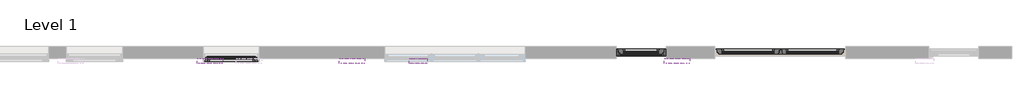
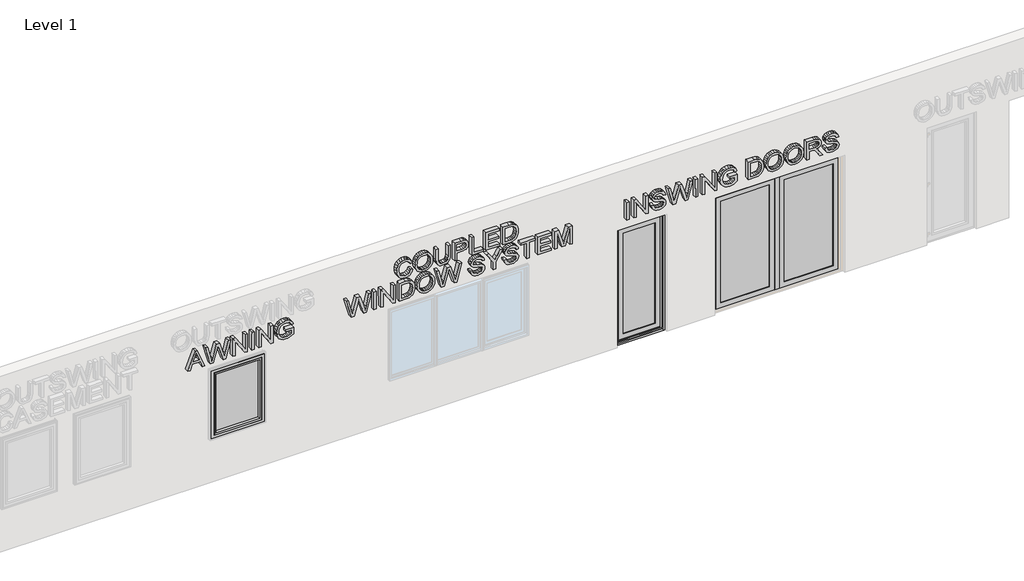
# One storey, part 3 of 4: 10 proxies.
"""IFC4 building model written with IfcOpenShell, lengths in millimetres."""

from ifc_helpers import new_model, si_unit, frame, origin, place, context, project, spatial, polyline, outline, extrude, transform, mapped, element, save
from components import awning_glazing_default_ca3b899a, default_b7455459, double_door_active_glazing_unit_default_3c53baf6, double_door_fixed_glazing_unit_default_5535939b, single_door_frame_default_a77f339c, single_door_glazing_unit_default_bb58f146

model = new_model("IFC4")

# Units and contexts
model_context = context("Model", 3, world=origin())
ifc_project = project(units=[si_unit("LENGTHUNIT", "METRE", prefix="MILLI")], contexts=[model_context])

# Site, building, storey
site = spatial("IfcSite", under=ifc_project)
building = spatial("IfcBuilding", under=site)
storey = spatial("IfcBuildingStorey", under=building, Name="Level 1", Elevation=0.0)

# Proxies
placement = place(None, origin())
element("IfcBuildingElementProxy", 1, Name="600mm Arial", ObjectType="600mm Arial", at=placement, inside=storey, context=model_context, shape_type="SweptSolid", body=[
    extrude(outline(polyline([(2116.0035161, -6844.9893745), (2116.0035161, -6804.7623194), (2211.4111483, -6770.2561868), (2211.4111483, -6644.8161831), (2116.7276892, -6609.6499485), (2116.7276892, -6569.4228934), (2421.0430268, -6691.933533), (2421.0430268, -6724.3531191), (2116.0035161, -6844.9893745)]), holes=[polyline([(2249.6749677, -6756.3942482), (2331.0373712, -6726.8276952), (2382.9224405, -6708.026177), (2324.6179818, -6686.5061482), (2249.8250648, -6658.8380628), (2249.6749677, -6756.3942482)])]), frame((0.0, 4149.5439366, 0.0), z_axis=(0.0, 1.0, 0.0), x_axis=(0.0, 0.0, 1.0)), (0.0, 0.0, 1.0), 76.2),
    extrude(outline(polyline([(2117.1443461, -6474.2461271), (2117.1443461, -6428.2935946), (2345.766056, -6362.4466515), (2385.2847789, -6351.1171932), (2352.5247551, -6340.8294011), (2117.7818015, -6267.0879467), (2117.7818015, -6226.4147505), (2422.7284167, -6144.2209858), (2422.7284167, -6183.4814019), (2220.5047663, -6231.489342), (2160.4544009, -6245.7299237), (2216.3281359, -6259.7509493), (2272.0379415, -6278.7162478), (2422.1781367, -6323.0492068), (2422.1781367, -6379.6347686), (2214.5113297, -6439.3746168), (2159.8100813, -6455.1188095), (2221.5548612, -6470.1803176), (2421.5752311, -6518.979503), (2421.5752311, -6558.2399191), (2117.1443461, -6474.2461271)])), frame((0.0, 4149.5439366, 0.0), z_axis=(0.0, 1.0, 0.0), x_axis=(0.0, 0.0, 1.0)), (0.0, 0.0, 1.0), 76.2),
    extrude(outline(polyline([(2118.2799136, -6105.6816832), (2118.2799136, -6067.1423806), (2359.7593934, -6067.1423806), (2118.8867089, -5908.0187245), (2118.8867089, -5867.2711714), (2423.577747, -5867.2711714), (2423.577747, -5906.27907), (2182.1726241, -5906.27907), (2422.9709518, -6065.4027262), (2422.9709518, -6106.1502792), (2118.2799136, -6105.6816832)])), frame((0.0, 4149.5439366, 0.0), z_axis=(0.0, 1.0, 0.0), x_axis=(0.0, 0.0, 1.0)), (0.0, 0.0, 1.0), 76.2),
    extrude(outline(polyline([(2119.2317493, -5796.3571928), (2119.2317493, -5757.8178902), (2423.9145505, -5757.8178902), (2423.9145505, -5796.8257888), (2119.2317493, -5796.3571928)])), frame((0.0, 4149.5439366, 0.0), z_axis=(0.0, 1.0, 0.0), x_axis=(0.0, 0.0, 1.0)), (0.0, 0.0, 1.0), 76.2),
    extrude(outline(polyline([(2119.5831963, -5682.1450732), (2119.5831963, -5643.6057706), (2361.0626761, -5643.6057706), (2120.1899916, -5484.4821145), (2120.1899916, -5443.7345614), (2424.8810298, -5443.7345614), (2424.8810298, -5482.74246), (2183.4759069, -5482.74246), (2424.2742345, -5641.8661162), (2424.2742345, -5682.6136692), (2119.5831963, -5682.1450732)])), frame((0.0, 4149.5439366, 0.0), z_axis=(0.0, 1.0, 0.0), x_axis=(0.0, 0.0, 1.0)), (0.0, 0.0, 1.0), 76.2),
    extrude(outline(polyline([(2239.9306551, -5234.7703408), (2239.9306551, -5149.0526766), (2185.1701724, -5149.0526766), (2174.3664047, -5165.0693561), (2164.1944401, -5187.3732054), (2156.7818574, -5213.0688144), (2154.2562354, -5239.4300898), (2157.4081584, -5269.3036409), (2167.0529219, -5297.505537), (2183.3931201, -5321.6290758), (2206.6313473, -5339.267555), (2236.5548288, -5350.0950055), (2272.9507895, -5353.7854583), (2304.0039261, -5350.9067111), (2332.7703049, -5342.0723231), (2362.1643722, -5322.5695577), (2374.2736742, -5308.01415), (2383.8299061, -5289.4727571), (2390.0613582, -5267.0266566), (2392.1963207, -5240.7571259), (2390.3599974, -5218.3047891), (2384.7064219, -5197.9413069), (2375.8732896, -5180.8490677), (2364.4982961, -5168.21046), (2349.3866986, -5158.636898), (2329.3437546, -5150.7397959), (2339.3412122, -5115.6737946), (2367.4461542, -5125.4546435), (2389.6471615, -5138.8422558), (2406.7681938, -5156.8987621), (2419.6332103, -5180.686293), (2427.6606265, -5208.9110964), (2430.2688576, -5240.2794202), (2425.471516, -5282.9830721), (2411.358635, -5320.3786726), (2400.7425755, -5336.7302274), (2387.6650472, -5351.0433174), (2354.1255849, -5373.5541024), (2314.1810255, -5387.3453443), (2271.2721467, -5391.8513599), (2228.6985906, -5387.0637132), (2190.3548545, -5372.9757988), (2158.4246275, -5349.7709354), (2135.0915984, -5317.6324418), (2120.8502113, -5278.9877544), (2116.1949099, -5236.26431), (2119.3069514, -5203.5844471), (2128.439438, -5171.7224536), (2143.5363732, -5140.7525149), (2164.5417606, -5110.7488161), (2278.3820959, -5110.7488161), (2278.3820959, -5234.8289153), (2239.9306551, -5234.7703408)])), frame((0.0, 4149.5439366, 0.0), z_axis=(0.0, 1.0, 0.0), x_axis=(0.0, 0.0, 1.0)), (0.0, 0.0, 1.0), 76.2),
])
element("IfcBuildingElementProxy", 2, Name="600mm Arial", ObjectType="600mm Arial", at=placement, inside=storey, context=model_context, shape_type="SweptSolid", body=[
    extrude(outline(polyline([(2606.0351917, -3192.1065761), (2573.3918175, -3204.3215974), (2549.8707113, -3224.2421066), (2535.6242479, -3250.6788516), (2530.8048018, -3282.4425806), (2534.1878036, -3309.7143284), (2544.5107021, -3335.0183666), (2561.8546326, -3356.1521026), (2586.3007303, -3370.9129434), (2616.6861685, -3379.6226252), (2651.8481202, -3382.602884), (2680.5759179, -3380.2653684), (2708.4635413, -3373.0734371), (2733.1536501, -3359.8858837), (2752.2889034, -3339.5615014), (2764.5846722, -3312.7376713), (2768.7563274, -3280.0517743), (2765.1722477, -3251.6733392), (2754.229184, -3228.5516457), (2735.2400217, -3210.4615068), (2707.5176465, -3197.1777355), (2716.7063311, -3159.1349434), (2754.8740124, -3176.0664924), (2770.3221241, -3188.0414446), (2783.3464165, -3202.3558487), (2793.6735282, -3218.7393173), (2801.0300977, -3236.9214631), (2805.4161249, -3256.9022861), (2806.83161, -3278.6817863), (2802.1316482, -3316.9242848), (2788.2775011, -3351.7925246), (2765.610324, -3381.1590706), (2734.4712726, -3402.8964877), (2696.0801136, -3416.3021325), (2651.6566144, -3420.6733617), (2609.5643186, -3416.5564139), (2570.2849441, -3404.4732744), (2536.903242, -3384.777339), (2512.5039632, -3357.8220036), (2503.8035506, -3341.3970671), (2497.6103799, -3322.7072931), (2492.7457644, -3278.5332323), (2494.4676094, -3255.8780665), (2499.4880812, -3235.054811), (2507.8071797, -3216.063466), (2519.4249048, -3198.9040313), (2534.1822044, -3183.915274), (2551.9200263, -3171.4359608), (2572.6383704, -3161.4660918), (2596.3372367, -3154.0056671), (2606.0351917, -3192.1065761)])), frame((0.0, 4149.5439366, 0.0), z_axis=(0.0, 1.0, 0.0), x_axis=(0.0, 0.0, 1.0)), (0.0, 0.0, 1.0), 76.2),
    extrude(outline(polyline([(2646.2734743, -3116.088261), (2607.3331654, -3111.6185193), (2570.5202079, -3098.45549), (2538.5571204, -3076.8678023), (2514.1664219, -3047.1240851), (2498.7459919, -3011.0503999), (2493.6937104, -2970.4728083), (2498.4957699, -2932.2770975), (2512.6584981, -2896.8056521), (2535.9138379, -2866.5950988), (2567.9937325, -2844.1820641), (2606.9067622, -2830.3318799), (2650.6615074, -2825.8098777), (2693.8120441, -2830.3669325), (2732.1021576, -2843.7575798), (2763.9902018, -2865.5681093), (2787.9345304, -2895.3848105), (2802.8815647, -2931.2525557), (2807.7777256, -2971.2162171), (2805.0113295, -3001.8197795), (2796.9096014, -3029.4605063), (2783.4725412, -3054.1383975), (2764.700149, -3075.853453), (2741.2184382, -3093.5433569), (2713.6534221, -3106.1457928), (2682.0051008, -3113.6607609), (2646.2734743, -3116.088261)]), holes=[polyline([(2646.0188391, -3078.0164105), (2676.8853612, -3076.126974), (2703.0099049, -3070.2541114), (2724.3924701, -3060.3978226), (2741.0330569, -3046.5581078), (2753.5274206, -3029.954405), (2762.4713165, -3011.8061523), (2767.8647449, -2992.1133498), (2769.7077055, -2970.8759975), (2766.1084401, -2941.3914471), (2755.1198192, -2914.9514077), (2737.4065927, -2893.0078969), (2713.6335106, -2877.0129328), (2684.5340744, -2867.219729), (2650.8417858, -2863.8814995), (2624.0163868, -2865.6881005), (2600.4231792, -2871.2829405), (2580.0621628, -2880.6660196), (2562.9333376, -2893.8373378), (2549.3506901, -2909.9473967), (2539.6282064, -2928.146698), (2533.7658865, -2948.4352417), (2531.7637305, -2970.8130279), (2533.6106997, -2992.8262232), (2539.2930099, -3012.9132767), (2548.8106611, -3031.0741884), (2562.1636533, -3047.3089582), (2578.8575994, -3060.6819482), (2598.3981124, -3070.2575202), (2620.7851923, -3076.0356743), (2646.0188391, -3078.0164105)])]), frame((0.0, 4149.5439366, 0.0), z_axis=(0.0, 1.0, 0.0), x_axis=(0.0, 0.0, 1.0)), (0.0, 0.0, 1.0), 76.2),
    extrude(outline(polyline([(2804.2995181, -2574.0616448), (2629.8741335, -2574.0616448), (2582.1965783, -2578.193034), (2565.2618762, -2584.1592379), (2552.9298911, -2592.5469308), (2544.1443981, -2603.7711238), (2537.8491725, -2618.246828), (2532.7295234, -2656.9527696), (2535.1824933, -2681.3867739), (2542.7043132, -2701.7467102), (2554.8973172, -2717.3807266), (2571.3638393, -2727.6369705), (2595.1685826, -2733.3428057), (2629.3762502, -2735.3255958), (2803.7430603, -2735.3255958), (2803.7430603, -2773.932854), (2627.9206779, -2773.932854), (2584.7003599, -2770.3685389), (2551.7033091, -2761.5950526), (2527.1293749, -2746.0902429), (2509.178407, -2722.8726275), (2498.2315128, -2691.9340845), (2494.6697996, -2653.2664919), (2499.0204561, -2613.7588402), (2511.803349, -2582.6795392), (2531.2991478, -2559.96753), (2555.7885219, -2545.5617539), (2587.4976871, -2537.9075527), (2628.6528593, -2535.4502681), (2804.3580927, -2535.4502681), (2804.2995181, -2574.0616448)])), frame((0.0, 4149.5439366, 0.0), z_axis=(0.0, 1.0, 0.0), x_axis=(0.0, 0.0, 1.0)), (0.0, 0.0, 1.0), 76.2),
    extrude(outline(polyline([(2499.9974513, -2468.8986058), (2499.9974513, -2430.3593032), (2623.8443965, -2430.3593032), (2623.8443965, -2353.3345581), (2625.8557084, -2323.8316841), (2630.9783073, -2299.2699523), (2639.4503808, -2279.6493624), (2651.271929, -2264.9699146), (2665.5117183, -2254.2946265), (2681.2385152, -2246.6865158), (2698.4523197, -2242.1455826), (2717.1531318, -2240.6718268), (2738.8304692, -2243.0064365), (2758.6535174, -2249.8711509), (2775.4443497, -2260.4537071), (2788.0250393, -2273.941842), (2796.7942248, -2290.6713914), (2802.1505445, -2310.9781907), (2804.9104319, -2356.4935056), (2804.9104319, -2469.3672018), (2499.9974513, -2468.8986058)]), holes=[polyline([(2662.037629, -2430.8571865), (2766.6095459, -2430.8571865), (2766.6095459, -2352.4354436), (2764.3665115, -2314.3567288), (2758.016068, -2299.9582958), (2747.1947753, -2288.6133545), (2732.7921127, -2281.2355218), (2715.6975595, -2278.7384148), (2693.1732676, -2282.8145379), (2676.3117627, -2295.1989534), (2665.758805, -2317.4737462), (2662.1601549, -2351.2210016), (2662.037629, -2430.8571865)])]), frame((0.0, 4149.5439366, 0.0), z_axis=(0.0, 1.0, 0.0), x_axis=(0.0, 0.0, 1.0)), (0.0, 0.0, 1.0), 76.2),
    extrude(outline(polyline([(2500.8614252, -2188.1271452), (2500.8614252, -1997.3050166), (2539.5178768, -1997.3050166), (2539.5178768, -2149.7049917), (2805.5442264, -2149.7049917), (2805.5442264, -2188.5957413), (2500.8614252, -2188.1271452)])), frame((0.0, 4149.5439366, 0.0), z_axis=(0.0, 1.0, 0.0), x_axis=(0.0, 0.0, 1.0)), (0.0, 0.0, 1.0), 76.2),
    extrude(outline(polyline([(2501.5789629, -1954.9440678), (2501.5789629, -1730.810071), (2540.3379199, -1730.810071), (2540.3379199, -1916.5219143), (2639.7024231, -1916.5219143), (2639.7024231, -1745.5112511), (2678.3003001, -1745.5112511), (2678.3003001, -1916.9465794), (2768.1910576, -1916.9465794), (2768.1910576, -1736.3889524), (2806.8182219, -1736.3889524), (2806.8182219, -1955.4126639), (2501.5789629, -1954.9440678)])), frame((0.0, 4149.5439366, 0.0), z_axis=(0.0, 1.0, 0.0), x_axis=(0.0, 0.0, 1.0)), (0.0, 0.0, 1.0), 76.2),
    extrude(outline(polyline([(2502.4429369, -1674.1726072), (2502.4429369, -1563.5815183), (2508.1374482, -1514.6335499), (2514.6207977, -1494.9022752), (2523.5297814, -1478.2828923), (2535.5179675, -1463.8200589), (2551.2389244, -1450.5584326), (2571.137077, -1439.0570626), (2595.6568505, -1429.8749981), (2624.4423613, -1423.8848453), (2657.1377258, -1421.9592103), (2695.6081856, -1425.0704809), (2729.5244586, -1434.1535206), (2758.3287541, -1449.2437918), (2781.4632814, -1470.3767569), (2794.7287103, -1490.9030823), (2803.1120965, -1515.2066202), (2807.3318929, -1569.5749761), (2807.3318929, -1674.6412033), (2502.4429369, -1674.1726072)]), holes=[polyline([(2540.7344419, -1635.7504537), (2769.0550315, -1635.7504537), (2769.0550315, -1570.1270388), (2767.8335418, -1538.037368), (2763.3279791, -1516.1252045), (2750.6791689, -1494.5690655), (2729.6915806, -1476.5006612), (2699.0940546, -1464.2211643), (2657.6154316, -1460.0317473), (2626.2955257, -1462.0080882), (2600.0005404, -1468.1453252), (2578.6388451, -1478.0156201), (2562.1188096, -1491.1911353), (2553.1767094, -1503.4697942), (2546.4912817, -1519.3989172), (2542.2994383, -1540.5221527), (2540.8380913, -1568.3831488), (2540.7344419, -1635.7504537)])]), frame((0.0, 4149.5439366, 0.0), z_axis=(0.0, 1.0, 0.0), x_axis=(0.0, 0.0, 1.0)), (0.0, 0.0, 1.0), 76.2),
])
element("IfcBuildingElementProxy", 3, Name="600mm Arial", ObjectType="600mm Arial", at=placement, inside=storey, context=model_context, shape_type="SweptSolid", body=[
    extrude(outline(polyline([(2116.2803722, -4164.2175876), (2116.2803722, -4118.2650552), (2344.902082, -4052.4181121), (2384.4208049, -4041.0886537), (2351.6607812, -4030.8008617), (2116.9178275, -3957.0594073), (2116.9178275, -3916.386211), (2421.8644428, -3834.1924463), (2421.8644428, -3873.4528624), (2219.6407923, -3921.4608026), (2159.5904269, -3935.7013842), (2215.4641619, -3949.7224099), (2271.1739675, -3968.6877084), (2421.3141627, -4013.0206674), (2421.3141627, -4069.6062292), (2213.6473558, -4129.3460773), (2158.9461074, -4145.0902701), (2220.6908873, -4160.1517781), (2420.7112572, -4208.9509636), (2420.7112572, -4248.2113797), (2116.2803722, -4164.2175876)])), frame((0.0, 4149.5439366, 0.0), z_axis=(0.0, 1.0, 0.0), x_axis=(0.0, 0.0, 1.0)), (0.0, 0.0, 1.0), 76.2),
    extrude(outline(polyline([(2117.4305833, -3790.8943054), (2117.4305833, -3752.3550029), (2422.1133844, -3752.3550029), (2422.1133844, -3791.3629015), (2117.4305833, -3790.8943054)])), frame((0.0, 4149.5439366, 0.0), z_axis=(0.0, 1.0, 0.0), x_axis=(0.0, 0.0, 1.0)), (0.0, 0.0, 1.0), 76.2),
    extrude(outline(polyline([(2117.7820303, -3676.6821859), (2117.7820303, -3638.1428833), (2359.2615101, -3638.1428833), (2118.3888256, -3479.0192272), (2118.3888256, -3438.2716741), (2423.0798638, -3438.2716741), (2423.0798638, -3477.2795727), (2181.6747408, -3477.2795727), (2422.4730685, -3636.4032289), (2422.4730685, -3677.1507819), (2117.7820303, -3676.6821859)])), frame((0.0, 4149.5439366, 0.0), z_axis=(0.0, 1.0, 0.0), x_axis=(0.0, 0.0, 1.0)), (0.0, 0.0, 1.0), 76.2),
    extrude(outline(polyline([(2118.7192224, -3372.1165338), (2118.7192224, -3261.5254448), (2124.4137336, -3212.5774765), (2130.8970832, -3192.8462017), (2139.8060669, -3176.2268188), (2151.794253, -3161.7639854), (2167.5152099, -3148.5023591), (2187.4133625, -3137.0009891), (2211.933136, -3127.8189246), (2240.7186467, -3121.8287718), (2273.4140113, -3119.9031368), (2311.884471, -3123.0144074), (2345.8007441, -3132.0974472), (2374.6050396, -3147.1877184), (2397.7395669, -3168.3206834), (2411.0049958, -3188.8470088), (2419.3883819, -3213.1505467), (2423.6081783, -3267.5189026), (2423.6081783, -3372.5851298), (2118.7192224, -3372.1165338)]), holes=[polyline([(2157.0107273, -3333.6943802), (2385.331317, -3333.6943802), (2385.331317, -3268.0709653), (2384.1098272, -3235.9812945), (2379.6042646, -3214.069131), (2366.9554544, -3192.512992), (2345.9678661, -3174.4445877), (2315.3703401, -3162.1650908), (2273.8917171, -3157.9756738), (2242.5718112, -3159.9520148), (2216.2768259, -3166.0892517), (2194.9151306, -3175.9595467), (2178.395095, -3189.1350618), (2169.4529949, -3201.4137207), (2162.7675671, -3217.3428437), (2158.5757237, -3238.4660792), (2157.1143768, -3266.3270753), (2157.0107273, -3333.6943802)])]), frame((0.0, 4149.5439366, 0.0), z_axis=(0.0, 1.0, 0.0), x_axis=(0.0, 0.0, 1.0)), (0.0, 0.0, 1.0), 76.2),
    extrude(outline(polyline([(2267.8800398, -3081.815041), (2228.9397309, -3077.3452993), (2192.1267734, -3064.18227), (2160.1636859, -3042.5945823), (2135.7729874, -3012.8508651), (2120.3525574, -2976.7771799), (2115.3002759, -2936.1995883), (2120.1023354, -2898.0038775), (2134.2650636, -2862.5324321), (2157.5204034, -2832.3218788), (2189.600298, -2809.9088441), (2228.5133277, -2796.0586599), (2272.2680729, -2791.5366577), (2315.4186096, -2796.0937125), (2353.7087231, -2809.4843598), (2385.5967673, -2831.2948893), (2409.5410959, -2861.1115905), (2424.4881302, -2896.9793357), (2429.3842911, -2936.9429971), (2426.617895, -2967.5465595), (2418.5161669, -2995.1872863), (2405.0791067, -3019.8651775), (2386.3067145, -3041.580233), (2362.8250037, -3059.2701369), (2335.2599876, -3071.8725728), (2303.6116663, -3079.3875409), (2267.8800398, -3081.815041)]), holes=[polyline([(2267.6254046, -3043.7431905), (2298.4919267, -3041.853754), (2324.6164704, -3035.9808914), (2345.9990356, -3026.1246026), (2362.6396224, -3012.2848878), (2375.1339861, -2995.681185), (2384.0778821, -2977.5329323), (2389.4713104, -2957.8401298), (2391.314271, -2936.6027775), (2387.7150056, -2907.1182271), (2376.7263847, -2880.6781877), (2359.0131582, -2858.7346769), (2335.2400761, -2842.7397128), (2306.1406399, -2832.946509), (2272.4483513, -2829.6082795), (2245.6229523, -2831.4148805), (2222.0297447, -2837.0097205), (2201.6687283, -2846.3927996), (2184.5399031, -2859.5641178), (2170.9572556, -2875.6741767), (2161.2347719, -2893.873478), (2155.372452, -2914.1620217), (2153.370296, -2936.5398079), (2155.2172652, -2958.5530032), (2160.8995754, -2978.6400567), (2170.4172266, -2996.8009684), (2183.7702188, -3013.0357382), (2200.4641649, -3026.4087282), (2220.0046779, -3035.9843002), (2242.3917578, -3041.7624543), (2267.6254046, -3043.7431905)])]), frame((0.0, 4149.5439366, 0.0), z_axis=(0.0, 1.0, 0.0), x_axis=(0.0, 0.0, 1.0)), (0.0, 0.0, 1.0), 76.2),
    extrude(outline(polyline([(2120.83454, -2684.2188718), (2120.83454, -2638.2663393), (2349.4562499, -2572.4193962), (2388.9749727, -2561.0899379), (2356.214949, -2550.8021459), (2121.4719954, -2477.0606914), (2121.4719954, -2436.3874952), (2426.4186106, -2354.1937305), (2426.4186106, -2393.4541466), (2224.1949601, -2441.4620867), (2164.1445948, -2455.7026684), (2220.0183297, -2469.723694), (2275.7281353, -2488.6889925), (2425.8683306, -2533.0219515), (2425.8683306, -2589.6075134), (2218.2015236, -2649.3473615), (2163.5002752, -2665.0915542), (2225.2450551, -2680.1530623), (2425.265425, -2728.9522478), (2425.265425, -2768.2126639), (2120.83454, -2684.2188718)])), frame((0.0, 4149.5439366, 0.0), z_axis=(0.0, 1.0, 0.0), x_axis=(0.0, 0.0, 1.0)), (0.0, 0.0, 1.0), 76.2),
    extrude(outline(polyline([(2227.0452847, -2210.8135487), (2196.2540532, -2206.2017586), (2168.8902208, -2194.2017584), (2146.4543899, -2175.571216), (2130.5057378, -2151.0677996), (2121.0081729, -2120.3381996), (2117.9256035, -2083.0291067), (2120.984079, -2052.6541631), (2129.9627317, -2025.4762221), (2144.2716826, -2002.8969674), (2163.3210529, -1986.3180826), (2185.4272319, -1976.1526483), (2208.9066088, -1972.8137449), (2231.8551621, -1975.8493683), (2251.9227295, -1984.8061413), (2268.9224463, -1999.9995086), (2282.667448, -2021.7449146), (2291.4935431, -2047.165178), (2301.5698592, -2089.1710228), (2312.1892666, -2129.8772816), (2322.6446356, -2151.398787), (2334.3836353, -2160.5251204), (2349.0040214, -2163.6001797), (2366.1750206, -2159.3774581), (2380.6583076, -2146.5953474), (2390.5416532, -2124.4486197), (2393.9128283, -2092.1320473), (2390.7011341, -2060.5387939), (2380.8445669, -2037.7364633), (2364.4937278, -2023.1120691), (2341.7992184, -2016.0526249), (2341.7992184, -1977.9819184), (2367.1287147, -1982.353649), (2389.5326596, -1993.2230237), (2407.9764146, -2010.3448361), (2421.3081921, -2033.47388), (2429.3637781, -2061.6058232), (2431.9789586, -2093.7363332), (2429.2945269, -2123.378147), (2421.432514, -2150.1412628), (2408.5744654, -2172.4182573), (2390.9019266, -2188.601707), (2370.0794329, -2198.4364824), (2347.7715196, -2201.6674541), (2327.8335034, -2198.9385248), (2309.9567174, -2190.8807838), (2294.4760535, -2177.4023146), (2281.7264034, -2158.4112008), (2272.6428615, -2135.1000408), (2263.1349165, -2098.6820561), (2248.7687279, -2043.2042937), (2240.9276016, -2026.9330402), (2231.5603853, -2017.2749128), (2220.5608635, -2012.5007717), (2207.8228207, -2010.881477), (2194.7388176, -2012.9511112), (2182.2552737, -2019.2423842), (2171.3664258, -2029.8513024), (2163.0665108, -2044.8738721), (2157.7950924, -2063.42845), (2155.9917339, -2084.6333927), (2158.2133683, -2108.7320761), (2165.0343174, -2130.3167554), (2175.5944732, -2147.9905799), (2189.0337273, -2160.3566988), (2205.9906619, -2168.3093677), (2227.1038592, -2172.7428422), (2227.0452847, -2210.8135487)])), frame((0.0, 4149.5439366, 0.0), z_axis=(0.0, 1.0, 0.0), x_axis=(0.0, 0.0, 1.0)), (0.0, 0.0, 1.0), 76.2),
    extrude(outline(polyline([(2123.4637574, -1829.9828136), (2123.4637574, -1791.7136173), (2252.5900388, -1791.7136173), (2428.5126492, -1673.6798515), (2428.5126492, -1718.5913881), (2337.8535536, -1775.9399457), (2286.5214676, -1808.3505976), (2334.2329328, -1840.9916632), (2427.8015181, -1904.7809372), (2427.8015181, -1949.6924737), (2252.4728898, -1830.1813033), (2123.4637574, -1829.9828136)])), frame((0.0, 4149.5439366, 0.0), z_axis=(0.0, 1.0, 0.0), x_axis=(0.0, 0.0, 1.0)), (0.0, 0.0, 1.0), 76.2),
    extrude(outline(polyline([(2228.758589, -1654.0294659), (2197.9673575, -1649.4176758), (2170.6035251, -1637.4176756), (2148.1676942, -1618.7871332), (2132.2190421, -1594.2837168), (2122.7214772, -1563.5541168), (2119.6389078, -1526.2450239), (2122.6973833, -1495.8700803), (2131.676036, -1468.6921393), (2145.9849869, -1446.1128845), (2165.0343572, -1429.5339998), (2187.1405362, -1419.3685654), (2210.6199131, -1416.0296621), (2233.5684664, -1419.0652855), (2253.6360338, -1428.0220585), (2270.6357506, -1443.2154258), (2284.3807523, -1464.9608318), (2293.2068474, -1490.3810952), (2303.2831635, -1532.38694), (2313.9025709, -1573.0931988), (2324.3579399, -1594.6147042), (2336.0969396, -1603.7410376), (2350.7173257, -1606.8160969), (2367.8883249, -1602.5933752), (2382.3716119, -1589.8112645), (2392.2549575, -1567.6645369), (2395.6261325, -1535.3479644), (2392.4144384, -1503.7547111), (2382.5578712, -1480.9523805), (2366.2070321, -1466.3279863), (2343.5125227, -1459.2685421), (2343.5125227, -1421.1978355), (2368.842019, -1425.5695662), (2391.2459639, -1436.4389409), (2409.6897189, -1453.5607533), (2423.0214964, -1476.6897972), (2431.0770824, -1504.8217404), (2433.6922629, -1536.9522504), (2431.0078312, -1566.5940642), (2423.1458183, -1593.35718), (2410.2877697, -1615.6341745), (2392.6152309, -1631.8176241), (2371.7927372, -1641.6523996), (2349.4848239, -1644.8833713), (2329.5468077, -1642.154442), (2311.6700217, -1634.0967009), (2296.1893578, -1620.6182318), (2283.4397077, -1601.627118), (2274.3561658, -1578.315958), (2264.8482207, -1541.8979733), (2250.4820322, -1486.4202109), (2242.6409059, -1470.1489574), (2233.2736896, -1460.49083), (2222.2741678, -1455.7166889), (2209.536125, -1454.0973941), (2196.4521219, -1456.1670284), (2183.9685779, -1462.4583014), (2173.0797301, -1473.0672196), (2164.7798151, -1488.0897893), (2159.5083967, -1506.6443672), (2157.7050382, -1527.8493099), (2159.9266726, -1551.9479933), (2166.7476217, -1573.5326726), (2177.3077775, -1591.2064971), (2190.7470316, -1603.572616), (2207.7039662, -1611.5252849), (2228.8171635, -1615.9587594), (2228.758589, -1654.0294659)])), frame((0.0, 4149.5439366, 0.0), z_axis=(0.0, 1.0, 0.0), x_axis=(0.0, 0.0, 1.0)), (0.0, 0.0, 1.0), 76.2),
    extrude(outline(polyline([(2125.1477744, -1282.9279391), (2125.1477744, -1244.4472111), (2391.759869, -1244.4472111), (2391.759869, -1145.3316496), (2430.1380917, -1145.3316496), (2430.1380917, -1383.3907143), (2391.3352039, -1383.3907143), (2391.3352039, -1283.3379607), (2125.1477744, -1282.9279391)])), frame((0.0, 4149.5439366, 0.0), z_axis=(0.0, 1.0, 0.0), x_axis=(0.0, 0.0, 1.0)), (0.0, 0.0, 1.0), 76.2),
    extrude(outline(polyline([(2125.7042322, -1102.1506577), (2125.7042322, -878.0166609), (2164.4631892, -878.0166609), (2164.4631892, -1063.7285041), (2263.8276923, -1063.7285041), (2263.8276923, -892.717841), (2302.4255694, -892.717841), (2302.4255694, -1064.1531693), (2392.3163268, -1064.1531693), (2392.3163268, -883.5955423), (2430.9434912, -883.5955423), (2430.9434912, -1102.6192537), (2125.7042322, -1102.1506577)])), frame((0.0, 4149.5439366, 0.0), z_axis=(0.0, 1.0, 0.0), x_axis=(0.0, 0.0, 1.0)), (0.0, 0.0, 1.0), 76.2),
    extrude(outline(polyline([(2126.5682062, -821.3791971), (2126.5682062, -782.8398946), (2393.1803008, -782.8398946), (2126.9207972, -706.3266973), (2126.9207972, -654.7230443), (2393.8099767, -579.0298901), (2127.3150311, -579.0298901), (2127.3150311, -540.1391405), (2431.9978323, -540.1391405), (2431.9978323, -606.5847163), (2220.6573372, -667.2056351), (2172.0604434, -680.6635276), (2216.8589549, -693.3678055), (2431.335437, -756.3394095), (2431.335437, -821.8477932), (2126.5682062, -821.3791971)])), frame((0.0, 4149.5439366, 0.0), z_axis=(0.0, 1.0, 0.0), x_axis=(0.0, 0.0, 1.0)), (0.0, 0.0, 1.0), 76.2),
])
element("IfcBuildingElementProxy", 4, Name="600mm Arial", ObjectType="600mm Arial", at=placement, inside=storey, context=model_context, shape_type="SweptSolid", body=[
    extrude(outline(polyline([(2217.7273005, 357.5690846), (2217.7273005, 396.1083871), (2522.4101017, 396.1083871), (2522.4101017, 357.1004885), (2217.7273005, 357.5690846)])), frame((0.0, 4149.5439366, 0.0), z_axis=(0.0, 1.0, 0.0), x_axis=(0.0, 0.0, 1.0)), (0.0, 0.0, 1.0), 76.2),
    extrude(outline(polyline([(2218.0787475, 471.7812041), (2218.0787475, 510.3205067), (2459.5582273, 510.3205067), (2218.6855428, 669.4441628), (2218.6855428, 710.1917159), (2523.376581, 710.1917159), (2523.376581, 671.1838173), (2281.9714581, 671.1838173), (2522.7697857, 512.0601611), (2522.7697857, 471.3126081), (2218.0787475, 471.7812041)])), frame((0.0, 4149.5439366, 0.0), z_axis=(0.0, 1.0, 0.0), x_axis=(0.0, 0.0, 1.0)), (0.0, 0.0, 1.0), 76.2),
    extrude(outline(polyline([(2323.7250262, 762.2167776), (2292.9337948, 766.8285677), (2265.5699623, 778.8285679), (2243.1341314, 797.4591103), (2227.1854793, 821.9625267), (2217.6879144, 852.6921267), (2214.6053451, 890.0012196), (2217.6638205, 920.3761632), (2226.6424732, 947.5541042), (2240.9514241, 970.1333589), (2260.0007945, 986.7122437), (2282.1069734, 996.877678), (2305.5863503, 1000.2165814), (2328.5349036, 997.180958), (2348.602471, 988.224185), (2365.6021878, 973.0308177), (2379.3471895, 951.2854117), (2388.1732846, 925.8651483), (2398.2496008, 883.8593035), (2408.8690082, 843.1530447), (2419.3243771, 821.6315393), (2431.0633768, 812.5052059), (2445.6837629, 809.4301466), (2462.8547621, 813.6528682), (2477.3380491, 826.4349789), (2487.2213947, 848.5817066), (2490.5925698, 880.898279), (2487.3808756, 912.4915324), (2477.5243084, 935.293863), (2461.1734694, 949.9182572), (2438.4789599, 956.9777014), (2438.4789599, 995.0484079), (2463.8084562, 990.6766773), (2486.2124012, 979.8073026), (2504.6561561, 962.6854902), (2517.9879336, 939.5564462), (2526.0435197, 911.4245031), (2528.6587002, 879.2939931), (2525.9742684, 849.6521793), (2518.1122555, 822.8890634), (2505.2542069, 800.612069), (2487.5816681, 784.4286193), (2466.7591745, 774.5938439), (2444.4512612, 771.3628722), (2424.5132449, 774.0918015), (2406.6364589, 782.1495425), (2391.155795, 795.6280117), (2378.4061449, 814.6191255), (2369.322603, 837.9302855), (2359.814658, 874.3482702), (2345.4484694, 929.8260326), (2337.6073431, 946.0972861), (2328.2401268, 955.7554135), (2317.240605, 960.5295546), (2304.5025622, 962.1488493), (2291.4185591, 960.0792151), (2278.9350152, 953.7879421), (2268.0461673, 943.1790239), (2259.7462524, 928.1564542), (2254.4748339, 909.6018763), (2252.6714754, 888.3969336), (2254.8931098, 864.2982502), (2261.714059, 842.7135709), (2272.2742147, 825.0397464), (2285.7134688, 812.6736275), (2302.6704035, 804.7209586), (2323.7836007, 800.2874841), (2323.7250262, 762.2167776)])), frame((0.0, 4149.5439366, 0.0), z_axis=(0.0, 1.0, 0.0), x_axis=(0.0, 0.0, 1.0)), (0.0, 0.0, 1.0), 76.2),
    extrude(outline(polyline([(2220.0476289, 1112.0904829), (2220.0476289, 1158.0430154), (2448.6693388, 1223.8899585), (2488.1880616, 1235.2194168), (2455.4280379, 1245.5072089), (2220.6850842, 1319.2486633), (2220.6850842, 1359.9218595), (2525.6316995, 1442.1156242), (2525.6316995, 1402.8552081), (2323.408049, 1354.847268), (2263.3576837, 1340.6066863), (2319.2314186, 1326.5856607), (2374.9412242, 1307.6203622), (2525.0814194, 1263.2874032), (2525.0814194, 1206.7018414), (2317.4146125, 1146.9619932), (2262.7133641, 1131.2178005), (2324.458144, 1116.1562924), (2524.4785139, 1067.357107), (2524.4785139, 1028.0966909), (2220.0476289, 1112.0904829)])), frame((0.0, 4149.5439366, 0.0), z_axis=(0.0, 1.0, 0.0), x_axis=(0.0, 0.0, 1.0)), (0.0, 0.0, 1.0), 76.2),
    extrude(outline(polyline([(2221.19784, 1485.4137651), (2221.19784, 1523.9530677), (2525.8806411, 1523.9530677), (2525.8806411, 1484.9451691), (2221.19784, 1485.4137651)])), frame((0.0, 4149.5439366, 0.0), z_axis=(0.0, 1.0, 0.0), x_axis=(0.0, 0.0, 1.0)), (0.0, 0.0, 1.0), 76.2),
    extrude(outline(polyline([(2221.549287, 1599.6258847), (2221.549287, 1638.1651872), (2463.0287668, 1638.1651872), (2222.1560823, 1797.2888434), (2222.1560823, 1838.0363964), (2526.8471205, 1838.0363964), (2526.8471205, 1799.0284978), (2285.4419975, 1799.0284978), (2526.2403252, 1639.9048417), (2526.2403252, 1599.1572886), (2221.549287, 1599.6258847)])), frame((0.0, 4149.5439366, 0.0), z_axis=(0.0, 1.0, 0.0), x_axis=(0.0, 0.0, 1.0)), (0.0, 0.0, 1.0), 76.2),
    extrude(outline(polyline([(2341.8967458, 2047.0006171), (2341.8967458, 2132.7182813), (2287.136263, 2132.7182813), (2276.3324953, 2116.7016018), (2266.1605307, 2094.3977524), (2258.747948, 2068.7021435), (2256.222326, 2042.340868), (2259.3742491, 2012.467317), (2269.0190125, 1984.2654209), (2285.3592107, 1960.1418821), (2308.597438, 1942.5034029), (2338.5209194, 1931.6759524), (2374.9168801, 1927.9854996), (2405.9700167, 1930.8642467), (2434.7363955, 1939.6986348), (2464.1304629, 1959.2014002), (2476.2397649, 1973.7568079), (2485.7959968, 1992.2982008), (2492.0274488, 2014.7443013), (2494.1624113, 2041.0138319), (2492.3260881, 2063.4661688), (2486.6725126, 2083.829651), (2477.8393803, 2100.9218902), (2466.4643867, 2113.5604979), (2451.3527893, 2123.1340598), (2431.3098453, 2131.031162), (2441.3073029, 2166.0971633), (2469.4122448, 2156.3163144), (2491.6132522, 2142.9287021), (2508.7342844, 2124.8721958), (2521.599301, 2101.0846649), (2529.6267171, 2072.8598615), (2532.2349483, 2041.4915377), (2527.4376066, 1998.7878858), (2513.3247257, 1961.3922853), (2502.7086661, 1945.0407304), (2489.6311379, 1930.7276405), (2456.0916756, 1908.2168555), (2416.1471162, 1894.4256136), (2373.2382373, 1889.919598), (2330.6646813, 1894.7072447), (2292.3209452, 1908.795159), (2260.3907181, 1932.0000224), (2237.0576891, 1964.1385161), (2222.8163019, 2002.7832035), (2218.1610006, 2045.5066478), (2221.2730421, 2078.1865108), (2230.4055287, 2110.0485042), (2245.5024639, 2141.018443), (2266.5078513, 2171.0221418), (2380.3481866, 2171.0221418), (2380.3481866, 2046.9420426), (2341.8967458, 2047.0006171)])), frame((0.0, 4149.5439366, 0.0), z_axis=(0.0, 1.0, 0.0), x_axis=(0.0, 0.0, 1.0)), (0.0, 0.0, 1.0), 76.2),
    extrude(outline(polyline([(2223.86298, 2351.5223384), (2223.86298, 2462.1134273), (2229.5574912, 2511.0613957), (2236.0408408, 2530.7926704), (2244.9498245, 2547.4120533), (2256.9380106, 2561.8748867), (2272.6589675, 2575.136513), (2292.5571201, 2586.637883), (2317.0768936, 2595.8199475), (2345.8624043, 2601.8101003), (2378.5577689, 2603.7357353), (2417.0282286, 2600.6244647), (2450.9445017, 2591.541425), (2479.7487972, 2576.4511538), (2502.8833245, 2555.3181887), (2516.1487534, 2534.7918633), (2524.5321395, 2510.4883255), (2528.7519359, 2456.1199695), (2528.7519359, 2351.0537423), (2223.86298, 2351.5223384)]), holes=[polyline([(2262.1544849, 2389.9444919), (2490.4750746, 2389.9444919), (2490.4750746, 2455.5679069), (2489.2535848, 2487.6575776), (2484.7480222, 2509.5697411), (2472.099212, 2531.1258802), (2451.1116237, 2549.1942844), (2420.5140977, 2561.4737814), (2379.0354747, 2565.6631983), (2347.7155688, 2563.6868574), (2321.4205835, 2557.5496205), (2300.0588882, 2547.6793255), (2283.5388526, 2534.5038103), (2274.5967525, 2522.2251514), (2267.9113247, 2506.2960284), (2263.7194813, 2485.1727929), (2262.2581344, 2457.3117968), (2262.1544849, 2389.9444919)])]), frame((0.0, 4149.5439366, 0.0), z_axis=(0.0, 1.0, 0.0), x_axis=(0.0, 0.0, 1.0)), (0.0, 0.0, 1.0), 76.2),
    extrude(outline(polyline([(2373.0237974, 2641.8238311), (2334.0834885, 2646.2935729), (2297.270531, 2659.4566021), (2265.3074435, 2681.0442898), (2240.916745, 2710.788007), (2225.496315, 2746.8616922), (2220.4440335, 2787.4392838), (2225.246093, 2825.6349946), (2239.4088212, 2861.10644), (2262.664161, 2891.3169933), (2294.7440556, 2913.730028), (2333.6570853, 2927.5802123), (2377.4118305, 2932.1022144), (2420.5623672, 2927.5451596), (2458.8524807, 2914.1545123), (2490.7405249, 2892.3439828), (2514.6848535, 2862.5272816), (2529.6318878, 2826.6595364), (2534.5280487, 2786.695875), (2531.7616526, 2756.0923126), (2523.6599245, 2728.4515858), (2510.2228643, 2703.7736947), (2491.4504721, 2682.0586391), (2467.9687613, 2664.3687353), (2440.4037452, 2651.7662993), (2408.7554239, 2644.2513313), (2373.0237974, 2641.8238311)]), holes=[polyline([(2372.7691622, 2679.8956817), (2403.6356843, 2681.7851182), (2429.760228, 2687.6579808), (2451.1427932, 2697.5142695), (2467.78338, 2711.3539843), (2480.2777437, 2727.9576872), (2489.2216397, 2746.1059398), (2494.615068, 2765.7987423), (2496.4580286, 2787.0360946), (2492.8587632, 2816.520645), (2481.8701423, 2842.9606845), (2464.1569158, 2864.9041952), (2440.3838337, 2880.8991594), (2411.2843975, 2890.6923631), (2377.5921089, 2894.0305927), (2350.7667099, 2892.2239917), (2327.1735023, 2886.6291516), (2306.8124859, 2877.2460725), (2289.6836607, 2864.0747543), (2276.1010132, 2847.9646954), (2266.3785295, 2829.7653941), (2260.5162096, 2809.4768504), (2258.5140536, 2787.0990643), (2260.3610228, 2765.0858689), (2266.043333, 2744.9988154), (2275.5609842, 2726.8379038), (2288.9139764, 2710.6031339), (2305.6079225, 2697.230144), (2325.1484355, 2687.6545719), (2347.5355154, 2681.8764178), (2372.7691622, 2679.8956817)])]), frame((0.0, 4149.5439366, 0.0), z_axis=(0.0, 1.0, 0.0), x_axis=(0.0, 0.0, 1.0)), (0.0, 0.0, 1.0), 76.2),
    extrude(outline(polyline([(2374.0342077, 2970.1836748), (2335.0938988, 2974.6534166), (2298.2809412, 2987.8164458), (2266.3178538, 3009.4041335), (2241.9271552, 3039.1478508), (2226.5067253, 3075.2215359), (2221.4544437, 3115.7991275), (2226.2565032, 3153.9948383), (2240.4192314, 3189.4662837), (2263.6745713, 3219.6768371), (2295.7544658, 3242.0898717), (2334.6674955, 3255.940056), (2378.4222408, 3260.4620581), (2421.5727774, 3255.9050033), (2459.8628909, 3242.514356), (2491.7509351, 3220.7038265), (2515.6952637, 3190.8871253), (2530.642298, 3155.0193801), (2535.5384589, 3115.0557187), (2532.7720628, 3084.4521563), (2524.6703347, 3056.8114296), (2511.2332745, 3032.1335384), (2492.4608823, 3010.4184828), (2468.9791715, 2992.728579), (2441.4141555, 2980.126143), (2409.7658342, 2972.611175), (2374.0342077, 2970.1836748)]), holes=[polyline([(2373.7795724, 3008.2555254), (2404.6460946, 3010.1449619), (2430.7706382, 3016.0178245), (2452.1532034, 3025.8741132), (2468.7937902, 3039.7138281), (2481.2881539, 3056.3175309), (2490.2320499, 3074.4657835), (2495.6254782, 3094.158586), (2497.4684388, 3115.3959383), (2493.8691734, 3144.8804887), (2482.8805525, 3171.3205282), (2465.1673261, 3193.2640389), (2441.3942439, 3209.2590031), (2412.2948077, 3219.0522068), (2378.6025191, 3222.3904364), (2351.7771202, 3220.5838354), (2328.1839125, 3214.9889953), (2307.8228961, 3205.6059162), (2290.694071, 3192.434598), (2277.1114234, 3176.3245391), (2267.3889397, 3158.1252378), (2261.5266198, 3137.8366941), (2259.5244638, 3115.458908), (2261.371433, 3093.4457127), (2267.0537433, 3073.3586592), (2276.5713944, 3055.1977475), (2289.9243866, 3038.9629776), (2306.6183327, 3025.5899877), (2326.1588457, 3016.0144156), (2348.5459256, 3010.2362615), (2373.7795724, 3008.2555254)])]), frame((0.0, 4149.5439366, 0.0), z_axis=(0.0, 1.0, 0.0), x_axis=(0.0, 0.0, 1.0)), (0.0, 0.0, 1.0), 76.2),
    extrude(outline(polyline([(2226.8209925, 3312.8076779), (2226.8209925, 3351.3469805), (2360.1856143, 3351.3469805), (2360.1856143, 3396.8894914), (2359.0565492, 3418.977594), (2351.8624708, 3437.1057953), (2332.1826197, 3457.280071), (2290.4821613, 3486.0360471), (2227.4751508, 3525.8625043), (2227.4751508, 3570.1048293), (2309.9911178, 3519.0651262), (2349.0822223, 3488.0864529), (2365.2997894, 3466.3985013), (2375.509136, 3503.8711763), (2383.6541097, 3518.380691), (2393.8259505, 3530.0723237), (2418.7459367, 3545.471307), (2448.7647986, 3550.5374899), (2472.8747201, 3547.3495777), (2494.7905413, 3537.940972), (2512.4426823, 3523.3311629), (2523.7615637, 3504.5396404), (2529.8449206, 3478.8582706), (2531.7904884, 3443.5789198), (2531.7904884, 3312.3390819), (2226.8209925, 3312.8076779)]), holes=[polyline([(2398.3874271, 3350.8198099), (2493.4330872, 3350.8198099), (2493.4330872, 3445.3319195), (2490.5272204, 3475.4658625), (2480.7202716, 3496.2696811), (2465.7931083, 3508.3894218), (2447.2348695, 3512.4711307), (2433.7790821, 3510.4026405), (2421.369895, 3504.1111387), (2411.0952634, 3493.7512872), (2404.0431423, 3479.4777481), (2399.9415572, 3460.5013092), (2398.5185333, 3436.0327585), (2398.3874271, 3350.8198099)])]), frame((0.0, 4149.5439366, 0.0), z_axis=(0.0, 1.0, 0.0), x_axis=(0.0, 0.0, 1.0)), (0.0, 0.0, 1.0), 76.2),
    extrude(outline(polyline([(2332.4672712, 3603.2432514), (2301.6760397, 3607.8550415), (2274.3122073, 3619.8550417), (2251.8763764, 3638.4855841), (2235.9277243, 3662.9890005), (2226.4301594, 3693.7186005), (2223.34759, 3731.0276934), (2226.4060655, 3761.402637), (2235.3847182, 3788.580578), (2249.6936691, 3811.1598328), (2268.7430394, 3827.7387175), (2290.8492184, 3837.9041519), (2314.3285953, 3841.2430552), (2337.2771486, 3838.2074318), (2357.344716, 3829.2506588), (2374.3444328, 3814.0572915), (2388.0894345, 3792.3118855), (2396.9155296, 3766.8916221), (2406.9918458, 3724.8857773), (2417.6112531, 3684.1795185), (2428.0666221, 3662.6580131), (2439.8056218, 3653.5316797), (2454.4260079, 3650.4566204), (2471.5970071, 3654.6793421), (2486.0802941, 3667.4614528), (2495.9636397, 3689.6081804), (2499.3348148, 3721.9247529), (2496.1231206, 3753.5180062), (2486.2665534, 3776.3203368), (2469.9157143, 3790.944731), (2447.2212049, 3798.0041752), (2447.2212049, 3836.0748818), (2472.5507012, 3831.7031511), (2494.9546462, 3820.8337764), (2513.3984011, 3803.711964), (2526.7301786, 3780.5829201), (2534.7857646, 3752.4509769), (2537.4009451, 3720.3204669), (2534.7165134, 3690.6786531), (2526.8545005, 3663.9155373), (2513.9964519, 3641.6385428), (2496.3239131, 3625.4550932), (2475.5014194, 3615.6203177), (2453.1935061, 3612.389346), (2433.2554899, 3615.1182753), (2415.3787039, 3623.1760164), (2399.89804, 3636.6544855), (2387.1483899, 3655.6455993), (2378.064848, 3678.9567593), (2368.556903, 3715.374744), (2354.1907144, 3770.8525064), (2346.3495881, 3787.12376), (2336.9823718, 3796.7818873), (2325.98285, 3801.5560284), (2313.2448072, 3803.1753232), (2300.1608041, 3801.105689), (2287.6772602, 3794.8144159), (2276.7884123, 3784.2054977), (2268.4884973, 3769.182928), (2263.2170789, 3750.6283501), (2261.4137204, 3729.4234074), (2263.6353548, 3705.324724), (2270.4563039, 3683.7400447), (2281.0164597, 3666.0662202), (2294.4557138, 3653.7001013), (2311.4126484, 3645.7474324), (2332.5258457, 3641.3139579), (2332.4672712, 3603.2432514)])), frame((0.0, 4149.5439366, 0.0), z_axis=(0.0, 1.0, 0.0), x_axis=(0.0, 0.0, 1.0)), (0.0, 0.0, 1.0), 76.2),
])
awning_glazing_default_shape = awning_glazing_default_ca3b899a(model_context)
element("IfcBuildingElementProxy", 5, Name="Awning Glazing : Default", ObjectType="Awning Glazing : Default", at=placement, inside=storey, context=model_context, shape_type="MappedRepresentation", body=[
    mapped(awning_glazing_default_shape, transform((-4786.4603644, 4181.2939366, 1371.6), x_axis=(0.0, 0.0, -1.0), y_axis=(0.0, -1.0, 0.0), z_axis=(-1.0, 0.0, 0.0))),
])
default_shape = default_b7455459(model_context)
element("IfcBuildingElementProxy", 6, Name="Double Door  Mullion Glazing Unit : Default", ObjectType="Double Door  Mullion Glazing Unit : Default", at=placement, inside=storey, context=model_context, shape_type="MappedRepresentation", body=[
    mapped(default_shape, transform((2909.7396356, 4383.6876866, 0.0), x_axis=(-1.0, -1.7292389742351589e-12, 0.0), y_axis=(1.7292389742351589e-12, -1.0, 0.0), z_axis=(0.0, 0.0, 1.0))),
])
double_door_active_glazing_unit_default_shape = double_door_active_glazing_unit_default_3c53baf6(model_context)
element("IfcBuildingElementProxy", 7, Name="Double Door Active Glazing Unit : Default", ObjectType="Double Door Active Glazing Unit : Default", at=placement, inside=storey, context=model_context, shape_type="MappedRepresentation", body=[
    mapped(double_door_active_glazing_unit_default_shape, transform((1863.5771356, 4383.6876866, 0.0), x_axis=(1.0, 0.0, 0.0), y_axis=(0.0, 1.0, 0.0), z_axis=(0.0, 0.0, 1.0))),
])
double_door_fixed_glazing_unit_default_shape = double_door_fixed_glazing_unit_default_5535939b(model_context)
element("IfcBuildingElementProxy", 8, Name="Double Door Fixed Glazing Unit : Default", ObjectType="Double Door Fixed Glazing Unit : Default", at=placement, inside=storey, context=model_context, shape_type="MappedRepresentation", body=[
    mapped(double_door_fixed_glazing_unit_default_shape, transform((3955.9021356, 4383.6876866, 0.0), x_axis=(1.0, 1.7292389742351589e-12, 0.0), y_axis=(-1.7292389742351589e-12, 1.0, 0.0), z_axis=(0.0, 0.0, 1.0))),
])
single_door_frame_default_shape = single_door_frame_default_a77f339c(model_context)
element("IfcBuildingElementProxy", 9, Name="Single Door Frame : Default", ObjectType="Single Door Frame : Default", at=placement, inside=storey, context=model_context, shape_type="MappedRepresentation", body=[
    mapped(single_door_frame_default_shape, transform((649.1396356, 4383.6876866, 0.0), x_axis=(-1.0, 0.0, 0.0), y_axis=(0.0, -1.0, 0.0), z_axis=(0.0, 0.0, 1.0))),
])
single_door_glazing_unit_default_shape = single_door_glazing_unit_default_bb58f146(model_context)
element("IfcBuildingElementProxy", 10, Name="Single Door Glazing Unit : Default", ObjectType="Single Door Glazing Unit : Default", at=placement, inside=storey, context=model_context, shape_type="MappedRepresentation", body=[
    mapped(single_door_glazing_unit_default_shape, transform((649.1396356, 4383.6876866, 0.0), x_axis=(-1.0, 0.0, 0.0), y_axis=(0.0, -1.0, 0.0), z_axis=(0.0, 0.0, 1.0))),
])

save(model, "model.ifc")
